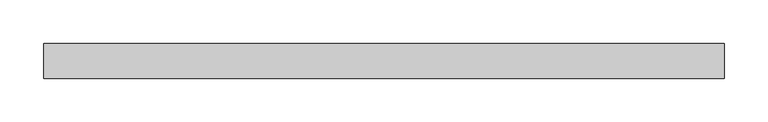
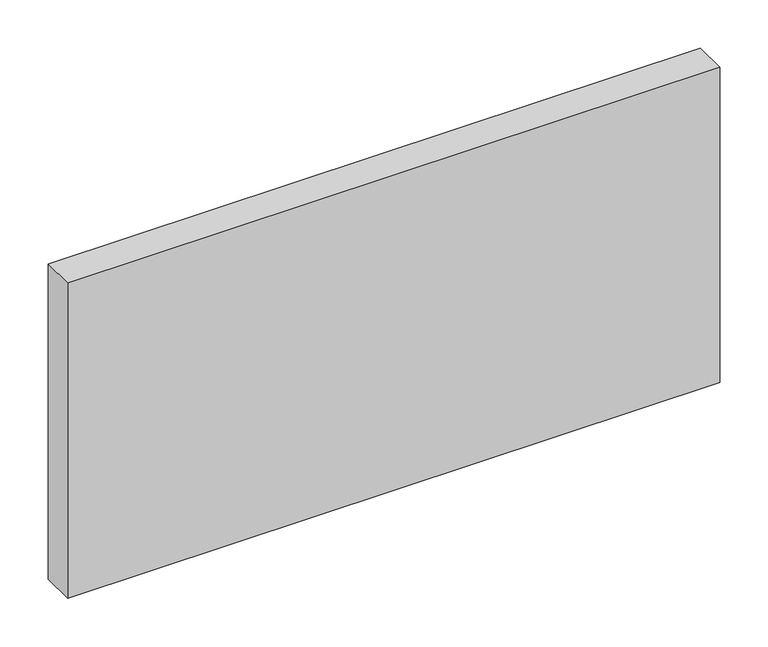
"""IFC4 building model written with IfcOpenShell, lengths in millimetres: plate geometry, Panneau système vide : Epaiss. 4cm."""

from ifc_helpers import new_model, si_unit, origin, origin_with_axes, place, context, project, spatial, polyline, outline, extrude, source, transform, mapped, element, save


def plate_34a9a5be(model_context):
    return source(origin(), model_context, "Body", "SweptSolid", [
        extrude(outline(polyline([(390.15, -20.0), (-390.15, -20.0), (-390.15, 20.0), (390.15, 20.0), (390.15, -20.0)])), origin_with_axes(), (0.0, 0.0, 1.0), 399.0),
    ])


if __name__ == "__main__":
    model = new_model("IFC4")
    model_context = context("Model", 3, world=origin())
    ifc_project = project(units=[si_unit("LENGTHUNIT", "METRE", prefix="MILLI")], contexts=[model_context])
    site = spatial("IfcSite", under=ifc_project)
    building = spatial("IfcBuilding", under=site)
    placement = place(None, origin())
    plate_shape = plate_34a9a5be(model_context)
    element("IfcPlate", 1, ObjectType="Panneau système vide : Epaiss. 4cm", at=placement, inside=building, context=model_context, shape_type="MappedRepresentation", body=[
        mapped(plate_shape, transform((0.0, 0.0, 0.0), x_axis=(1.0, 0.0, 0.0), y_axis=(0.0, 1.0, 0.0), z_axis=(0.0, 0.0, 1.0))),
    ])
    save(model, "model.ifc")
